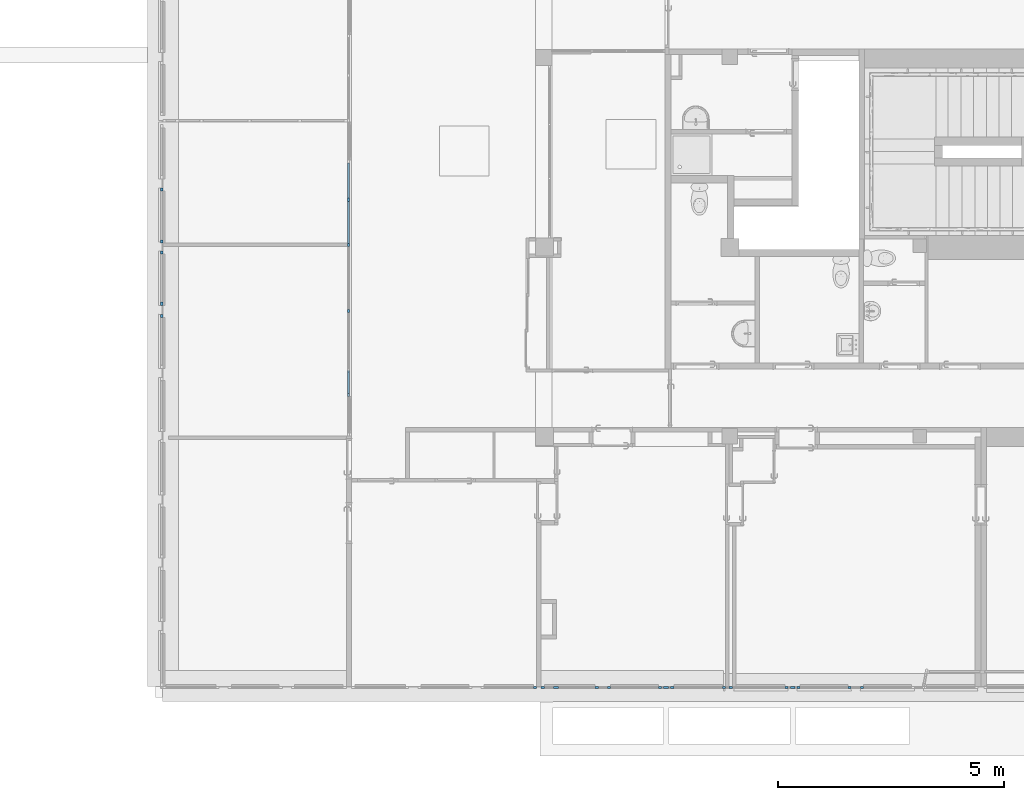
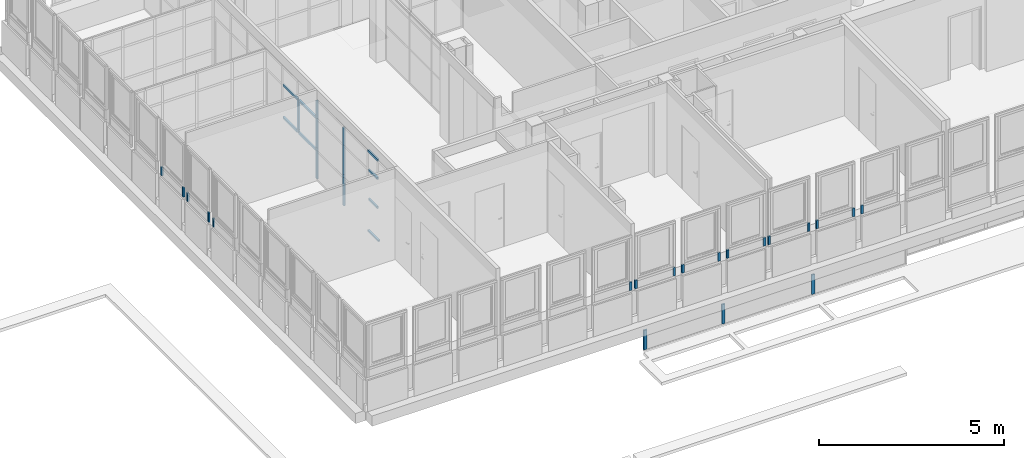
# One storey, part 15 of 97: 38 members, 12 elements without a shape of their own.
"""IFC4 building model written with IfcOpenShell, lengths in metres."""

from ifc_helpers import new_model, entity, si_unit, converted_unit, derived_unit, direction, frame, origin, place, context, subcontext, project, spatial, indexed_curve, outline, extrude, source, transform, mapped, material, type_object, type_shapes, element, aggregate, save


model = new_model("IFC4")

# Units and contexts
model_context = context("Model", 3, precision=1e-05, world=origin(), true_north=direction((6.12303176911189e-17, 1.0)))
body_context = subcontext(model_context, "Body", "Model", "MODEL_VIEW")
ifc_project = project(units=[si_unit("LENGTHUNIT", "METRE"), si_unit("AREAUNIT", "SQUARE_METRE"), si_unit("VOLUMEUNIT", "CUBIC_METRE"), converted_unit("PLANEANGLEUNIT", "DEGREE", entity("IfcRatioMeasure", 0.0174532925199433), si_unit("PLANEANGLEUNIT", "RADIAN"), dimensions=[0, 0, 0, 0, 0, 0, 0]), si_unit("MASSUNIT", "GRAM", prefix="KILO"), derived_unit("MASSDENSITYUNIT", [(si_unit("MASSUNIT", "GRAM", prefix="KILO"), 1), (si_unit("LENGTHUNIT", "METRE"), -3)]), derived_unit("MOMENTOFINERTIAUNIT", [(si_unit("LENGTHUNIT", "METRE"), 4)]), si_unit("TIMEUNIT", "SECOND"), si_unit("FREQUENCYUNIT", "HERTZ"), si_unit("THERMODYNAMICTEMPERATUREUNIT", "DEGREE_CELSIUS"), derived_unit("THERMALTRANSMITTANCEUNIT", [(si_unit("MASSUNIT", "GRAM", prefix="KILO"), 1), (si_unit("THERMODYNAMICTEMPERATUREUNIT", "KELVIN"), -1), (si_unit("TIMEUNIT", "SECOND"), -3)]), derived_unit("VOLUMETRICFLOWRATEUNIT", [(si_unit("LENGTHUNIT", "METRE"), 3), (si_unit("TIMEUNIT", "SECOND"), -1)]), si_unit("ELECTRICCURRENTUNIT", "AMPERE"), si_unit("ELECTRICVOLTAGEUNIT", "VOLT"), si_unit("POWERUNIT", "WATT"), si_unit("FORCEUNIT", "NEWTON", prefix="KILO"), si_unit("ILLUMINANCEUNIT", "LUX"), si_unit("LUMINOUSFLUXUNIT", "LUMEN"), si_unit("LUMINOUSINTENSITYUNIT", "CANDELA"), derived_unit("USERDEFINED", [(si_unit("MASSUNIT", "GRAM", prefix="KILO"), -1), (si_unit("LENGTHUNIT", "METRE"), -2), (si_unit("TIMEUNIT", "SECOND"), 3), (si_unit("LUMINOUSFLUXUNIT", "LUMEN"), 1)]), derived_unit("LINEARVELOCITYUNIT", [(si_unit("LENGTHUNIT", "METRE"), 1), (si_unit("TIMEUNIT", "SECOND"), -1)]), si_unit("PRESSUREUNIT", "PASCAL"), derived_unit("USERDEFINED", [(si_unit("LENGTHUNIT", "METRE"), -2), (si_unit("MASSUNIT", "GRAM", prefix="KILO"), 1), (si_unit("TIMEUNIT", "SECOND"), -2)]), derived_unit("LINEARFORCEUNIT", [(si_unit("MASSUNIT", "GRAM", prefix="KILO"), 1), (si_unit("LENGTHUNIT", "METRE"), 1), (si_unit("TIMEUNIT", "SECOND"), -2), (si_unit("LENGTHUNIT", "METRE"), -1)]), derived_unit("PLANARFORCEUNIT", [(si_unit("MASSUNIT", "GRAM", prefix="KILO"), 1), (si_unit("LENGTHUNIT", "METRE"), 1), (si_unit("TIMEUNIT", "SECOND"), -2), (si_unit("LENGTHUNIT", "METRE"), -2)])], contexts=[model_context])

# Site, building, storey
site_placement = place(None, origin())
site = spatial("IfcSite", under=ifc_project, at=site_placement, Name="Default", CompositionType="ELEMENT")
building_placement = place(site_placement, origin())
building = spatial("IfcBuilding", under=site, at=building_placement, Name="HOTEL CONSULAIRE BOULOGNE SUR MER", CompositionType="ELEMENT")
storey_placement = place(building_placement, frame((0.0, 0.0, 3.62152697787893)))
storey = spatial("IfcBuildingStorey", under=building, at=storey_placement, Name="Niveau 1", CompositionType="ELEMENT", Elevation=3.62152697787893)

# Curtain wall, members
curtain_wall_type = type_object("IfcCurtainWallType", Name="Mur-rideau:Simple panneau", PredefinedType="NOTDEFINED")
curtain_wall_1_placement = place(storey_placement, frame((0.0, 0.0, -3.62152697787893)))
curtain_wall_1 = element("IfcCurtainWall", 1, at=curtain_wall_1_placement, inside=storey, type_object=curtain_wall_type, Name="Mur-rideau:Simple panneau", ObjectType="Mur-rideau:Simple panneau", PredefinedType="NOTDEFINED")
ifc_material_1 = material(Name="PVC - Blanc", Category="Plastique")
member_type_1 = type_object("IfcMemberType", Name="Meneau rectangulaire:50 x 50 mm", PredefinedType="MULLION", material=ifc_material_1)
shared_shape_1 = source(origin(), body_context, "Body", "SweptSolid", [
    extrude(outline(indexed_curve([(-0.025, -0.05), (0.025, -0.05), (0.025, 0.05), (-0.025, 0.05), (-0.025, -0.05)], self_intersect=False)), frame((-0.05, -0.025, -0.642526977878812), z_axis=(0.0, 0.0, 1.0), x_axis=(0.0, -1.0, 0.0)), (0.0, 0.0, 1.0), 0.642526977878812),
])
type_shapes(member_type_1, [shared_shape_1])
member_1_placement = place(storey_placement, frame((-5.12977317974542, -29.5510671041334, -1.2555269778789), z_axis=(0.0, 0.0, -1.0), x_axis=(-1.0, 0.0, 0.0)))
member_1 = element("IfcMember", 2, at=member_1_placement, type_object=member_type_1, material=ifc_material_1, Name="Meneau rectangulaire:50 x 50 mm", ObjectType="Meneau rectangulaire:50 x 50 mm", PredefinedType="MULLION", context=body_context, shape_type="MappedRepresentation", body=[
    mapped(shared_shape_1, transform((0.0, 0.0, 0.0), scale=1.0)),
])
member_type_2 = type_object("IfcMemberType", Name="Meneau rectangulaire:50 x 50 mm", PredefinedType="MULLION", material=ifc_material_1)
shared_shape_2 = source(origin(), body_context, "Body", "SweptSolid", [
    extrude(outline(indexed_curve([(-0.025, -0.05), (0.025, -0.05), (0.025, 0.05), (-0.025, 0.05), (-0.025, -0.05)], self_intersect=False)), frame((0.0, -0.025, -0.642526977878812), z_axis=(0.0, 0.0, 1.0), x_axis=(0.0, -1.0, 0.0)), (0.0, 0.0, 1.0), 0.642526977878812),
])
type_shapes(member_type_2, [shared_shape_2])
member_2_placement = place(storey_placement, frame((-2.64377317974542, -29.5510671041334, -1.2555269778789), z_axis=(0.0, 0.0, -1.0), x_axis=(-1.0, 0.0, 0.0)))
member_2 = element("IfcMember", 3, at=member_2_placement, type_object=member_type_2, material=ifc_material_1, Name="Meneau rectangulaire:50 x 50 mm", ObjectType="Meneau rectangulaire:50 x 50 mm", PredefinedType="MULLION", context=body_context, shape_type="MappedRepresentation", body=[
    mapped(shared_shape_2, transform((0.0, 0.0, 0.0), scale=1.0)),
])
member_3_placement = place(storey_placement, frame((0.16122682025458, -29.5510671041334, -1.2555269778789), z_axis=(0.0, 0.0, -1.0), x_axis=(-1.0, 0.0, 0.0)))
member_3 = element("IfcMember", 4, at=member_3_placement, type_object=member_type_2, material=ifc_material_1, Name="Meneau rectangulaire:50 x 50 mm", ObjectType="Meneau rectangulaire:50 x 50 mm", PredefinedType="MULLION", context=body_context, shape_type="MappedRepresentation", body=[
    mapped(shared_shape_2, transform((0.0, 0.0, 0.0), scale=1.0)),
])
aggregate(curtain_wall_1, [member_1, member_2, member_3])

# Curtain wall, member
curtain_wall_2_placement = place(storey_placement, frame((0.0, 0.0, -3.62152697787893)))
curtain_wall_2 = element("IfcCurtainWall", 5, at=curtain_wall_2_placement, inside=storey, type_object=curtain_wall_type, Name="Mur-rideau:Simple panneau", ObjectType="Mur-rideau:Simple panneau", PredefinedType="NOTDEFINED")
member_type_3 = type_object("IfcMemberType", Name="Meneau rectangulaire:50 x 35", PredefinedType="MULLION", material=ifc_material_1)
shared_shape_3 = source(origin(), body_context, "Body", "SweptSolid", [
    extrude(outline(indexed_curve([(-0.025, -0.035), (0.025, -0.035), (0.025, 0.035), (-0.025, 0.035), (-0.025, -0.035)], self_intersect=False)), frame((-0.035, -0.025, -0.278), z_axis=(0.0, 0.0, 1.0), x_axis=(0.0, -1.0, 0.0)), (0.0, 0.0, 1.0), 0.278),
])
type_shapes(member_type_3, [shared_shape_3])
member_4_placement = place(storey_placement, frame((-13.7870998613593, -18.5114499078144, 0.861612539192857), z_axis=(0.0, 0.0, -1.0), x_axis=(0.0, 1.0, 0.0)))
member_4 = element("IfcMember", 6, at=member_4_placement, type_object=member_type_3, material=ifc_material_1, Name="Meneau rectangulaire:50 x 35", ObjectType="Meneau rectangulaire:50 x 35", PredefinedType="MULLION", context=body_context, shape_type="MappedRepresentation", body=[
    mapped(shared_shape_3, transform((0.0, 0.0, 0.0), scale=1.0)),
])

curtain_wall_3_placement = place(storey_placement, frame((0.0, 0.0, -3.62152697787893)))
curtain_wall_3 = element("IfcCurtainWall", 7, at=curtain_wall_3_placement, inside=storey, type_object=curtain_wall_type, Name="Mur-rideau:Simple panneau", ObjectType="Mur-rideau:Simple panneau", PredefinedType="NOTDEFINED")
member_5_placement = place(storey_placement, frame((-13.7870998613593, -19.9114499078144, 0.861612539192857), z_axis=(0.0, 0.0, -1.0), x_axis=(0.0, 1.0, 0.0)))
member_5 = element("IfcMember", 8, at=member_5_placement, type_object=member_type_3, material=ifc_material_1, Name="Meneau rectangulaire:50 x 35", ObjectType="Meneau rectangulaire:50 x 35", PredefinedType="MULLION", context=body_context, shape_type="MappedRepresentation", body=[
    mapped(shared_shape_3, transform((0.0, 0.0, 0.0), scale=1.0)),
])

curtain_wall_4_placement = place(storey_placement, frame((0.0, 0.0, -3.62152697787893)))
curtain_wall_4 = element("IfcCurtainWall", 9, at=curtain_wall_4_placement, inside=storey, type_object=curtain_wall_type, Name="Mur-rideau:Simple panneau", ObjectType="Mur-rideau:Simple panneau", PredefinedType="NOTDEFINED")
member_6_placement = place(storey_placement, frame((-13.7870998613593, -21.3114499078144, 0.861612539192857), z_axis=(0.0, 0.0, -1.0), x_axis=(0.0, 1.0, 0.0)))
member_6 = element("IfcMember", 10, at=member_6_placement, type_object=member_type_3, material=ifc_material_1, Name="Meneau rectangulaire:50 x 35", ObjectType="Meneau rectangulaire:50 x 35", PredefinedType="MULLION", context=body_context, shape_type="MappedRepresentation", body=[
    mapped(shared_shape_3, transform((0.0, 0.0, 0.0), scale=1.0)),
])
aggregate(curtain_wall_4, [member_6])

curtain_wall_5_placement = place(storey_placement, frame((0.0, 0.0, -3.62152697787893)))
curtain_wall_5 = element("IfcCurtainWall", 11, at=curtain_wall_5_placement, inside=storey, type_object=curtain_wall_type, Name="Mur-rideau:Simple panneau", ObjectType="Mur-rideau:Simple panneau", PredefinedType="NOTDEFINED")
member_7_placement = place(storey_placement, frame((-5.40714306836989, -29.5501047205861, 0.861612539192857), z_axis=(0.0, 0.0, -1.0), x_axis=(-1.0, 0.0, 0.0)))
member_7 = element("IfcMember", 12, at=member_7_placement, type_object=member_type_3, material=ifc_material_1, Name="Meneau rectangulaire:50 x 35", ObjectType="Meneau rectangulaire:50 x 35", PredefinedType="MULLION", context=body_context, shape_type="MappedRepresentation", body=[
    mapped(shared_shape_3, transform((0.0, 0.0, 0.0), scale=1.0)),
])

curtain_wall_6_placement = place(storey_placement, frame((0.0, 0.0, -3.62152697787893)))
curtain_wall_6 = element("IfcCurtainWall", 13, at=curtain_wall_6_placement, inside=storey, type_object=curtain_wall_type, Name="Mur-rideau:Simple panneau", ObjectType="Mur-rideau:Simple panneau", PredefinedType="NOTDEFINED")
member_8_placement = place(storey_placement, frame((-3.94141997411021, -29.5501047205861, 0.861612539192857), z_axis=(0.0, 0.0, -1.0), x_axis=(-1.0, 0.0, 0.0)))
member_8 = element("IfcMember", 14, at=member_8_placement, type_object=member_type_3, material=ifc_material_1, Name="Meneau rectangulaire:50 x 35", ObjectType="Meneau rectangulaire:50 x 35", PredefinedType="MULLION", context=body_context, shape_type="MappedRepresentation", body=[
    mapped(shared_shape_3, transform((0.0, 0.0, 0.0), scale=1.0)),
])

curtain_wall_7_placement = place(storey_placement, frame((0.0, 0.0, -3.62152697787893)))
curtain_wall_7 = element("IfcCurtainWall", 15, at=curtain_wall_7_placement, inside=storey, type_object=curtain_wall_type, Name="Mur-rideau:Simple panneau", ObjectType="Mur-rideau:Simple panneau", PredefinedType="NOTDEFINED")
member_9_placement = place(storey_placement, frame((-2.54141997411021, -29.5501047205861, 0.861612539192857), z_axis=(0.0, 0.0, -1.0), x_axis=(-1.0, 0.0, 0.0)))
member_9 = element("IfcMember", 16, at=member_9_placement, type_object=member_type_3, material=ifc_material_1, Name="Meneau rectangulaire:50 x 35", ObjectType="Meneau rectangulaire:50 x 35", PredefinedType="MULLION", context=body_context, shape_type="MappedRepresentation", body=[
    mapped(shared_shape_3, transform((0.0, 0.0, 0.0), scale=1.0)),
])

curtain_wall_8_placement = place(storey_placement, frame((0.0, 0.0, -3.62152697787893)))
curtain_wall_8 = element("IfcCurtainWall", 17, at=curtain_wall_8_placement, inside=storey, type_object=curtain_wall_type, Name="Mur-rideau:Simple panneau", ObjectType="Mur-rideau:Simple panneau", PredefinedType="NOTDEFINED")
member_10_placement = place(storey_placement, frame((-1.24414453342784, -29.5501047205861, 0.861612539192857), z_axis=(0.0, 0.0, -1.0), x_axis=(-1.0, 0.0, 0.0)))
member_10 = element("IfcMember", 18, at=member_10_placement, type_object=member_type_3, material=ifc_material_1, Name="Meneau rectangulaire:50 x 35", ObjectType="Meneau rectangulaire:50 x 35", PredefinedType="MULLION", context=body_context, shape_type="MappedRepresentation", body=[
    mapped(shared_shape_3, transform((0.0, 0.0, 0.0), scale=1.0)),
])

curtain_wall_9_placement = place(storey_placement, frame((0.0, 0.0, -3.62152697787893)))
curtain_wall_9 = element("IfcCurtainWall", 19, at=curtain_wall_9_placement, inside=storey, type_object=curtain_wall_type, Name="Mur-rideau:Simple panneau", ObjectType="Mur-rideau:Simple panneau", PredefinedType="NOTDEFINED")
member_11_placement = place(storey_placement, frame((0.258580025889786, -29.5501047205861, 0.861612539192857), z_axis=(0.0, 0.0, -1.0), x_axis=(-1.0, 0.0, 0.0)))
member_11 = element("IfcMember", 20, at=member_11_placement, type_object=member_type_3, material=ifc_material_1, Name="Meneau rectangulaire:50 x 35", ObjectType="Meneau rectangulaire:50 x 35", PredefinedType="MULLION", context=body_context, shape_type="MappedRepresentation", body=[
    mapped(shared_shape_3, transform((0.0, 0.0, 0.0), scale=1.0)),
])

curtain_wall_10_placement = place(storey_placement, frame((0.0, 0.0, -3.62152697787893)))
curtain_wall_10 = element("IfcCurtainWall", 21, at=curtain_wall_10_placement, inside=storey, type_object=curtain_wall_type, Name="Mur-rideau:Simple panneau", ObjectType="Mur-rideau:Simple panneau", PredefinedType="NOTDEFINED")
member_12_placement = place(storey_placement, frame((1.65858002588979, -29.5501047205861, 0.861612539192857), z_axis=(0.0, 0.0, -1.0), x_axis=(-1.0, 0.0, 0.0)))
member_12 = element("IfcMember", 22, at=member_12_placement, type_object=member_type_3, material=ifc_material_1, Name="Meneau rectangulaire:50 x 35", ObjectType="Meneau rectangulaire:50 x 35", PredefinedType="MULLION", context=body_context, shape_type="MappedRepresentation", body=[
    mapped(shared_shape_3, transform((0.0, 0.0, 0.0), scale=1.0)),
])
aggregate(curtain_wall_10, [member_12])

# Member
member_type_4 = type_object("IfcMemberType", Name="Meneau rectangulaire:50 x 35", PredefinedType="MULLION", material=ifc_material_1)
shared_shape_4 = source(origin(), body_context, "Body", "SweptSolid", [
    extrude(outline(indexed_curve([(-0.025, -0.035), (0.025, -0.035), (0.025, 0.035), (-0.025, 0.035), (-0.025, -0.035)], self_intersect=False)), frame((-0.035, -0.025, -0.313), z_axis=(0.0, 0.0, 1.0), x_axis=(0.0, -1.0, 0.0)), (0.0, 0.0, 1.0), 0.313),
])
type_shapes(member_type_4, [shared_shape_4])
member_13_placement = place(storey_placement, frame((-13.7870998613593, -19.7373346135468, 1.17461253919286), z_axis=(0.0, 0.0, 1.0), x_axis=(0.0, -1.0, 0.0)))
member_13 = element("IfcMember", 23, at=member_13_placement, type_object=member_type_4, material=ifc_material_1, Name="Meneau rectangulaire:50 x 35", ObjectType="Meneau rectangulaire:50 x 35", PredefinedType="MULLION", context=body_context, shape_type="MappedRepresentation", body=[
    mapped(shared_shape_4, transform((0.0, 0.0, 0.0), scale=1.0)),
])

aggregate(curtain_wall_2, [member_4, member_13])

member_14_placement = place(storey_placement, frame((-13.7870998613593, -21.1114499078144, 1.17461253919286), z_axis=(0.0, 0.0, 1.0), x_axis=(0.0, -1.0, 0.0)))
member_14 = element("IfcMember", 24, at=member_14_placement, type_object=member_type_4, material=ifc_material_1, Name="Meneau rectangulaire:50 x 35", ObjectType="Meneau rectangulaire:50 x 35", PredefinedType="MULLION", context=body_context, shape_type="MappedRepresentation", body=[
    mapped(shared_shape_4, transform((0.0, 0.0, 0.0), scale=1.0)),
])

aggregate(curtain_wall_3, [member_5, member_14])

# Curtain wall, member
curtain_wall_11_placement = place(storey_placement, frame((0.0, 0.0, -3.62152697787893)))
curtain_wall_11 = element("IfcCurtainWall", 25, at=curtain_wall_11_placement, inside=storey, type_object=curtain_wall_type, Name="Mur-rideau:Simple panneau", ObjectType="Mur-rideau:Simple panneau", PredefinedType="NOTDEFINED")
member_type_5 = type_object("IfcMemberType", Name="Meneau rectangulaire:50 x 35", PredefinedType="MULLION", material=ifc_material_1)
shared_shape_5 = source(origin(), body_context, "Body", "SweptSolid", [
    extrude(outline(indexed_curve([(-0.025, -0.035), (0.025, -0.035), (0.025, 0.035), (-0.025, 0.035), (-0.025, -0.035)], self_intersect=False)), frame((-0.035, -0.025, -0.278), z_axis=(0.0, 0.0, 1.0), x_axis=(0.0, -1.0, 0.0)), (0.0, 0.0, 1.0), 0.278),
])
type_shapes(member_type_5, [shared_shape_5])
member_15_placement = place(storey_placement, frame((-5.50714306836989, -29.5501047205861, 1.13961253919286)))
member_15 = element("IfcMember", 26, at=member_15_placement, type_object=member_type_5, material=ifc_material_1, Name="Meneau rectangulaire:50 x 35", ObjectType="Meneau rectangulaire:50 x 35", PredefinedType="MULLION", context=body_context, shape_type="MappedRepresentation", body=[
    mapped(shared_shape_5, transform((0.0, 0.0, 0.0), scale=1.0)),
])
aggregate(curtain_wall_11, [member_15])

# Member
member_16_placement = place(storey_placement, frame((-4.14141997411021, -29.5501047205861, 1.13961253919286)))
member_16 = element("IfcMember", 27, at=member_16_placement, type_object=member_type_5, material=ifc_material_1, Name="Meneau rectangulaire:50 x 35", ObjectType="Meneau rectangulaire:50 x 35", PredefinedType="MULLION", context=body_context, shape_type="MappedRepresentation", body=[
    mapped(shared_shape_5, transform((0.0, 0.0, 0.0), scale=1.0)),
])

aggregate(curtain_wall_5, [member_7, member_16])

member_17_placement = place(storey_placement, frame((-2.74141997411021, -29.5501047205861, 1.13961253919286)))
member_17 = element("IfcMember", 28, at=member_17_placement, type_object=member_type_5, material=ifc_material_1, Name="Meneau rectangulaire:50 x 35", ObjectType="Meneau rectangulaire:50 x 35", PredefinedType="MULLION", context=body_context, shape_type="MappedRepresentation", body=[
    mapped(shared_shape_5, transform((0.0, 0.0, 0.0), scale=1.0)),
])

aggregate(curtain_wall_6, [member_8, member_17])

member_18_placement = place(storey_placement, frame((-1.32414453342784, -29.5501047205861, 1.13961253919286)))
member_18 = element("IfcMember", 29, at=member_18_placement, type_object=member_type_5, material=ifc_material_1, Name="Meneau rectangulaire:50 x 35", ObjectType="Meneau rectangulaire:50 x 35", PredefinedType="MULLION", context=body_context, shape_type="MappedRepresentation", body=[
    mapped(shared_shape_5, transform((0.0, 0.0, 0.0), scale=1.0)),
])

aggregate(curtain_wall_7, [member_9, member_18])

member_19_placement = place(storey_placement, frame((0.0585800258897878, -29.5501047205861, 1.13961253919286)))
member_19 = element("IfcMember", 30, at=member_19_placement, type_object=member_type_5, material=ifc_material_1, Name="Meneau rectangulaire:50 x 35", ObjectType="Meneau rectangulaire:50 x 35", PredefinedType="MULLION", context=body_context, shape_type="MappedRepresentation", body=[
    mapped(shared_shape_5, transform((0.0, 0.0, 0.0), scale=1.0)),
])

aggregate(curtain_wall_8, [member_10, member_19])

member_20_placement = place(storey_placement, frame((1.45858002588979, -29.5501047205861, 1.13961253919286)))
member_20 = element("IfcMember", 31, at=member_20_placement, type_object=member_type_5, material=ifc_material_1, Name="Meneau rectangulaire:50 x 35", ObjectType="Meneau rectangulaire:50 x 35", PredefinedType="MULLION", context=body_context, shape_type="MappedRepresentation", body=[
    mapped(shared_shape_5, transform((0.0, 0.0, 0.0), scale=1.0)),
])

aggregate(curtain_wall_9, [member_11, member_20])

# Curtain wall, members
curtain_wall_12_placement = place(storey_placement, frame((0.0, 0.0, -3.62152697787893)))
curtain_wall_12 = element("IfcCurtainWall", 32, at=curtain_wall_12_placement, inside=storey, type_object=curtain_wall_type, Name="Mur-rideau:Simple panneau", ObjectType="Mur-rideau:Simple panneau", PredefinedType="NOTDEFINED")
ifc_material_2 = material(Name="PVC, souple", Category="Plastique")
member_type_6 = type_object("IfcMemberType", Name="Meneau rectangulaire:50 x 35 pvc gris", PredefinedType="MULLION", material=ifc_material_2)
shared_shape_6 = source(origin(), body_context, "Body", "SweptSolid", [
    extrude(outline(indexed_curve([(-0.025, -0.035), (0.025, -0.035), (0.025, 0.035), (-0.025, 0.035), (-0.025, -0.035)], self_intersect=False)), frame((0.0, -0.025, -0.581), z_axis=(0.0, 0.0, 1.0), x_axis=(0.0, -1.0, 0.0)), (0.0, 0.0, 1.0), 0.581),
])
type_shapes(member_type_6, [shared_shape_6])
member_21_placement = place(storey_placement, frame((-9.64962464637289, -21.2352596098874, 2.04596046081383), z_axis=(0.0, 0.0, -1.0), x_axis=(0.0, 1.0, 0.0)))
member_21 = element("IfcMember", 33, at=member_21_placement, type_object=member_type_6, material=ifc_material_2, Name="Meneau rectangulaire:50 x 35 pvc gris", ObjectType="Meneau rectangulaire:50 x 35 pvc gris", PredefinedType="MULLION", context=body_context, shape_type="MappedRepresentation", body=[
    mapped(shared_shape_6, transform((0.0, 0.0, 0.0), scale=1.0)),
])
member_22_placement = place(storey_placement, frame((-9.64962464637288, -19.7752596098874, 2.04596046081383), z_axis=(0.0, 0.0, -1.0), x_axis=(0.0, 1.0, 0.0)))
member_22 = element("IfcMember", 34, at=member_22_placement, type_object=member_type_6, material=ifc_material_2, Name="Meneau rectangulaire:50 x 35 pvc gris", ObjectType="Meneau rectangulaire:50 x 35 pvc gris", PredefinedType="MULLION", context=body_context, shape_type="MappedRepresentation", body=[
    mapped(shared_shape_6, transform((0.0, 0.0, 0.0), scale=1.0)),
])
member_type_7 = type_object("IfcMemberType", Name="Meneau rectangulaire:50 x 35 pvc gris", PredefinedType="MULLION", material=ifc_material_2)
shared_shape_7 = source(origin(), body_context, "Body", "SweptSolid", [
    extrude(outline(indexed_curve([(-0.025, -0.035), (0.025, -0.035), (0.025, 0.035), (-0.025, 0.035), (-0.025, -0.035)], self_intersect=False)), frame((0.0, -0.025, -0.926960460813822), z_axis=(0.0, 0.0, 1.0), x_axis=(0.0, -1.0, 0.0)), (0.0, 0.0, 1.0), 0.926960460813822),
])
type_shapes(member_type_7, [shared_shape_7])
member_23_placement = place(storey_placement, frame((-9.64962464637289, -21.2352596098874, 0.050000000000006), z_axis=(0.0, 0.0, -1.0), x_axis=(0.0, 1.0, 0.0)))
member_23 = element("IfcMember", 35, at=member_23_placement, type_object=member_type_7, material=ifc_material_2, Name="Meneau rectangulaire:50 x 35 pvc gris", ObjectType="Meneau rectangulaire:50 x 35 pvc gris", PredefinedType="MULLION", context=body_context, shape_type="MappedRepresentation", body=[
    mapped(shared_shape_7, transform((0.0, 0.0, 0.0), scale=1.0)),
])
member_24_placement = place(storey_placement, frame((-9.64962464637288, -19.7752596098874, 0.050000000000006), z_axis=(0.0, 0.0, -1.0), x_axis=(0.0, 1.0, 0.0)))
member_24 = element("IfcMember", 36, at=member_24_placement, type_object=member_type_7, material=ifc_material_2, Name="Meneau rectangulaire:50 x 35 pvc gris", ObjectType="Meneau rectangulaire:50 x 35 pvc gris", PredefinedType="MULLION", context=body_context, shape_type="MappedRepresentation", body=[
    mapped(shared_shape_7, transform((0.0, 0.0, 0.0), scale=1.0)),
])
member_type_8 = type_object("IfcMemberType", Name="Meneau rectangulaire:50 x 35 pvc gris", PredefinedType="MULLION", material=ifc_material_2)
shared_shape_8 = source(origin(), body_context, "Body", "SweptSolid", [
    extrude(outline(indexed_curve([(-0.025, -0.035), (0.025, -0.035), (0.025, 0.035), (-0.025, 0.035), (-0.025, -0.035)], self_intersect=False)), frame((0.0, -0.025, -0.779999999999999), z_axis=(0.0, 0.0, 1.0), x_axis=(0.0, -1.0, 0.0)), (0.0, 0.0, 1.0), 0.78),
])
type_shapes(member_type_8, [shared_shape_8])
member_25_placement = place(storey_placement, frame((-9.64962464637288, -17.9602596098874, 0.976960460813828), z_axis=(0.0, 1.0, 0.0), x_axis=(0.0, 0.0, 1.0)))
member_25 = element("IfcMember", 37, at=member_25_placement, type_object=member_type_8, material=ifc_material_2, Name="Meneau rectangulaire:50 x 35 pvc gris", ObjectType="Meneau rectangulaire:50 x 35 pvc gris", PredefinedType="MULLION", context=body_context, shape_type="MappedRepresentation", body=[
    mapped(shared_shape_8, transform((0.0, 0.0, 0.0), scale=1.0)),
])
member_26_placement = place(storey_placement, frame((-9.64962464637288, -17.9602596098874, 2.04596046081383), z_axis=(0.0, 1.0, 0.0), x_axis=(0.0, 0.0, 1.0)))
member_26 = element("IfcMember", 38, at=member_26_placement, type_object=member_type_8, material=ifc_material_2, Name="Meneau rectangulaire:50 x 35 pvc gris", ObjectType="Meneau rectangulaire:50 x 35 pvc gris", PredefinedType="MULLION", context=body_context, shape_type="MappedRepresentation", body=[
    mapped(shared_shape_8, transform((0.0, 0.0, 0.0), scale=1.0)),
])
member_type_9 = type_object("IfcMemberType", Name="Meneau rectangulaire:50 x 35 pvc gris", PredefinedType="MULLION", material=ifc_material_2)
shared_shape_9 = source(origin(), body_context, "Body", "SweptSolid", [
    extrude(outline(indexed_curve([(-0.025, -0.035), (0.025, -0.035), (0.025, 0.035), (-0.025, 0.035), (-0.025, -0.035)], self_intersect=False)), frame((0.0, -0.025, -0.929999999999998), z_axis=(0.0, 0.0, 1.0), x_axis=(0.0, -1.0, 0.0)), (0.0, 0.0, 1.0), 0.929999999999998),
])
type_shapes(member_type_9, [shared_shape_9])
member_27_placement = place(storey_placement, frame((-9.64962464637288, -18.8102596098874, 0.976960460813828), z_axis=(0.0, 1.0, 0.0), x_axis=(0.0, 0.0, 1.0)))
member_27 = element("IfcMember", 39, at=member_27_placement, type_object=member_type_9, material=ifc_material_2, Name="Meneau rectangulaire:50 x 35 pvc gris", ObjectType="Meneau rectangulaire:50 x 35 pvc gris", PredefinedType="MULLION", context=body_context, shape_type="MappedRepresentation", body=[
    mapped(shared_shape_9, transform((0.0, 0.0, 0.0), scale=1.0)),
])
member_28_placement = place(storey_placement, frame((-9.64962464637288, -18.8102596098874, 2.04596046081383), z_axis=(0.0, 1.0, 0.0), x_axis=(0.0, 0.0, 1.0)))
member_28 = element("IfcMember", 40, at=member_28_placement, type_object=member_type_9, material=ifc_material_2, Name="Meneau rectangulaire:50 x 35 pvc gris", ObjectType="Meneau rectangulaire:50 x 35 pvc gris", PredefinedType="MULLION", context=body_context, shape_type="MappedRepresentation", body=[
    mapped(shared_shape_9, transform((0.0, 0.0, 0.0), scale=1.0)),
])
member_type_10 = type_object("IfcMemberType", Name="Meneau rectangulaire:50 x 35 pvc gris", PredefinedType="MULLION", material=ifc_material_2)
shared_shape_10 = source(origin(), body_context, "Body", "SweptSolid", [
    extrude(outline(indexed_curve([(-0.025, -0.035), (0.025, -0.035), (0.025, 0.035), (-0.025, 0.035), (-0.025, -0.035)], self_intersect=False)), frame((0.0, -0.025, -0.470999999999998), z_axis=(0.0, 0.0, 1.0), x_axis=(0.0, -1.0, 0.0)), (0.0, 0.0, 1.0), 0.470999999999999),
])
type_shapes(member_type_10, [shared_shape_10])
member_29_placement = place(storey_placement, frame((-9.64962464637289, -22.5902596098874, 2.04596046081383), z_axis=(0.0, 1.0, 0.0), x_axis=(0.0, 0.0, 1.0)))
member_29 = element("IfcMember", 41, at=member_29_placement, type_object=member_type_10, material=ifc_material_2, Name="Meneau rectangulaire:50 x 35 pvc gris", ObjectType="Meneau rectangulaire:50 x 35 pvc gris", PredefinedType="MULLION", context=body_context, shape_type="MappedRepresentation", body=[
    mapped(shared_shape_10, transform((0.0, 0.0, 0.0), scale=1.0)),
])
member_30_placement = place(storey_placement, frame((-9.64962464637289, -22.5902596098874, 1.08196046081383), z_axis=(0.0, 1.0, 0.0), x_axis=(0.0, 0.0, 1.0)))
member_30 = element("IfcMember", 42, at=member_30_placement, type_object=member_type_10, material=ifc_material_2, Name="Meneau rectangulaire:50 x 35 pvc gris", ObjectType="Meneau rectangulaire:50 x 35 pvc gris", PredefinedType="MULLION", context=body_context, shape_type="MappedRepresentation", body=[
    mapped(shared_shape_10, transform((0.0, 0.0, 0.0), scale=1.0)),
])
member_type_11 = type_object("IfcMemberType", Name="Meneau rectangulaire:50 x 35 pvc gris", PredefinedType="MULLION", material=ifc_material_2)
shared_shape_11 = source(origin(), body_context, "Body", "SweptSolid", [
    extrude(outline(indexed_curve([(-0.025, -0.035), (0.025, -0.035), (0.025, 0.035), (-0.025, 0.035), (-0.025, -0.035)], self_intersect=False)), frame((0.0, -0.025, -0.105), z_axis=(0.0, 0.0, 1.0), x_axis=(0.0, -1.0, 0.0)), (0.0, 0.0, 1.0), 0.105),
])
type_shapes(member_type_11, [shared_shape_11])
member_31_placement = place(storey_placement, frame((-9.64962464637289, -21.2352596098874, 0.976960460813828), z_axis=(0.0, 0.0, -1.0), x_axis=(0.0, 1.0, 0.0)))
member_31 = element("IfcMember", 43, at=member_31_placement, type_object=member_type_11, material=ifc_material_2, Name="Meneau rectangulaire:50 x 35 pvc gris", ObjectType="Meneau rectangulaire:50 x 35 pvc gris", PredefinedType="MULLION", context=body_context, shape_type="MappedRepresentation", body=[
    mapped(shared_shape_11, transform((0.0, 0.0, 0.0), scale=1.0)),
])
member_32_placement = place(storey_placement, frame((-9.64962464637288, -19.7752596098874, 0.976960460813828), z_axis=(0.0, 0.0, -1.0), x_axis=(0.0, 1.0, 0.0)))
member_32 = element("IfcMember", 44, at=member_32_placement, type_object=member_type_11, material=ifc_material_2, Name="Meneau rectangulaire:50 x 35 pvc gris", ObjectType="Meneau rectangulaire:50 x 35 pvc gris", PredefinedType="MULLION", context=body_context, shape_type="MappedRepresentation", body=[
    mapped(shared_shape_11, transform((0.0, 0.0, 0.0), scale=1.0)),
])
member_33_placement = place(storey_placement, frame((-9.64962464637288, -18.7752596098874, 0.976960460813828), z_axis=(0.0, 0.0, -1.0), x_axis=(0.0, 1.0, 0.0)))
member_33 = element("IfcMember", 45, at=member_33_placement, type_object=member_type_11, material=ifc_material_2, Name="Meneau rectangulaire:50 x 35 pvc gris", ObjectType="Meneau rectangulaire:50 x 35 pvc gris", PredefinedType="MULLION", context=body_context, shape_type="MappedRepresentation", body=[
    mapped(shared_shape_11, transform((0.0, 0.0, 0.0), scale=1.0)),
])
member_type_12 = type_object("IfcMemberType", Name="Meneau rectangulaire:50 x 35 pvc gris", PredefinedType="MULLION", material=ifc_material_2)
shared_shape_12 = source(origin(), body_context, "Body", "SweptSolid", [
    extrude(outline(indexed_curve([(-0.025, -0.035), (0.025, -0.035), (0.025, 0.035), (-0.025, 0.035), (-0.025, -0.035)], self_intersect=False)), frame((0.0, -0.025, -0.964), z_axis=(0.0, 0.0, 1.0), x_axis=(0.0, -1.0, 0.0)), (0.0, 0.0, 1.0), 0.964),
])
type_shapes(member_type_12, [shared_shape_12])
member_34_placement = place(storey_placement, frame((-9.64962464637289, -21.2352596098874, 1.08196046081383), z_axis=(0.0, 0.0, -1.0), x_axis=(0.0, 1.0, 0.0)))
member_34 = element("IfcMember", 46, at=member_34_placement, type_object=member_type_12, material=ifc_material_2, Name="Meneau rectangulaire:50 x 35 pvc gris", ObjectType="Meneau rectangulaire:50 x 35 pvc gris", PredefinedType="MULLION", context=body_context, shape_type="MappedRepresentation", body=[
    mapped(shared_shape_12, transform((0.0, 0.0, 0.0), scale=1.0)),
])
member_35_placement = place(storey_placement, frame((-9.64962464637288, -19.7752596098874, 1.08196046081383), z_axis=(0.0, 0.0, -1.0), x_axis=(0.0, 1.0, 0.0)))
member_35 = element("IfcMember", 47, at=member_35_placement, type_object=member_type_12, material=ifc_material_2, Name="Meneau rectangulaire:50 x 35 pvc gris", ObjectType="Meneau rectangulaire:50 x 35 pvc gris", PredefinedType="MULLION", context=body_context, shape_type="MappedRepresentation", body=[
    mapped(shared_shape_12, transform((0.0, 0.0, 0.0), scale=1.0)),
])
member_36_placement = place(storey_placement, frame((-9.64962464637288, -18.7752596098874, 1.08196046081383), z_axis=(0.0, 0.0, -1.0), x_axis=(0.0, 1.0, 0.0)))
member_36 = element("IfcMember", 48, at=member_36_placement, type_object=member_type_12, material=ifc_material_2, Name="Meneau rectangulaire:50 x 35 pvc gris", ObjectType="Meneau rectangulaire:50 x 35 pvc gris", PredefinedType="MULLION", context=body_context, shape_type="MappedRepresentation", body=[
    mapped(shared_shape_12, transform((0.0, 0.0, 0.0), scale=1.0)),
])
member_type_13 = type_object("IfcMemberType", Name="Meneau rectangulaire:50 x 35 pvc gris", PredefinedType="MULLION", material=ifc_material_2)
shared_shape_13 = source(origin(), body_context, "Body", "SweptSolid", [
    extrude(outline(indexed_curve([(-0.025, -0.035), (0.025, -0.035), (0.025, 0.035), (-0.025, 0.035), (-0.025, -0.035)], self_intersect=False)), frame((-0.035, -0.025, -0.540999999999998), z_axis=(0.0, 0.0, 1.0), x_axis=(0.0, -1.0, 0.0)), (0.0, 0.0, 1.0), 0.540999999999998),
])
type_shapes(member_type_13, [shared_shape_13])
member_37_placement = place(storey_placement, frame((-9.64962464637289, -22.5552596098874, 2.69696046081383), z_axis=(0.0, 1.0, 0.0), x_axis=(0.0, 0.0, 1.0)))
member_37 = element("IfcMember", 49, at=member_37_placement, type_object=member_type_13, material=ifc_material_2, Name="Meneau rectangulaire:50 x 35 pvc gris", ObjectType="Meneau rectangulaire:50 x 35 pvc gris", PredefinedType="MULLION", context=body_context, shape_type="MappedRepresentation", body=[
    mapped(shared_shape_13, transform((0.0, 0.0, 0.0), scale=1.0)),
])
member_type_14 = type_object("IfcMemberType", Name="Meneau rectangulaire:50 x 25mm pvc gris", PredefinedType="MULLION", material=ifc_material_2)
shared_shape_14 = source(origin(), body_context, "Body", "SweptSolid", [
    extrude(outline(indexed_curve([(-0.025, -0.025), (0.025, -0.025), (0.025, 0.025), (-0.025, 0.025), (-0.025, -0.025)], self_intersect=False)), frame((-0.025, -0.025, -0.575999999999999), z_axis=(0.0, 0.0, 1.0), x_axis=(0.0, -1.0, 0.0)), (0.0, 0.0, 1.0), 0.575999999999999),
])
type_shapes(member_type_14, [shared_shape_14])
member_38_placement = place(storey_placement, frame((-9.64962464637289, -23.1312596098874, 0.0), z_axis=(0.0, -1.0, 0.0), x_axis=(0.0, 0.0, -1.0)))
member_38 = element("IfcMember", 50, at=member_38_placement, type_object=member_type_14, material=ifc_material_2, Name="Meneau rectangulaire:50 x 25mm pvc gris", ObjectType="Meneau rectangulaire:50 x 25mm pvc gris", PredefinedType="MULLION", context=body_context, shape_type="MappedRepresentation", body=[
    mapped(shared_shape_14, transform((0.0, 0.0, 0.0), scale=1.0)),
])
aggregate(curtain_wall_12, [member_25, member_27, member_26, member_28, member_29, member_31, member_34, member_21, member_23, member_32, member_35, member_22, member_24, member_33, member_36, member_37, member_30, member_38])

save(model, "model.ifc")
